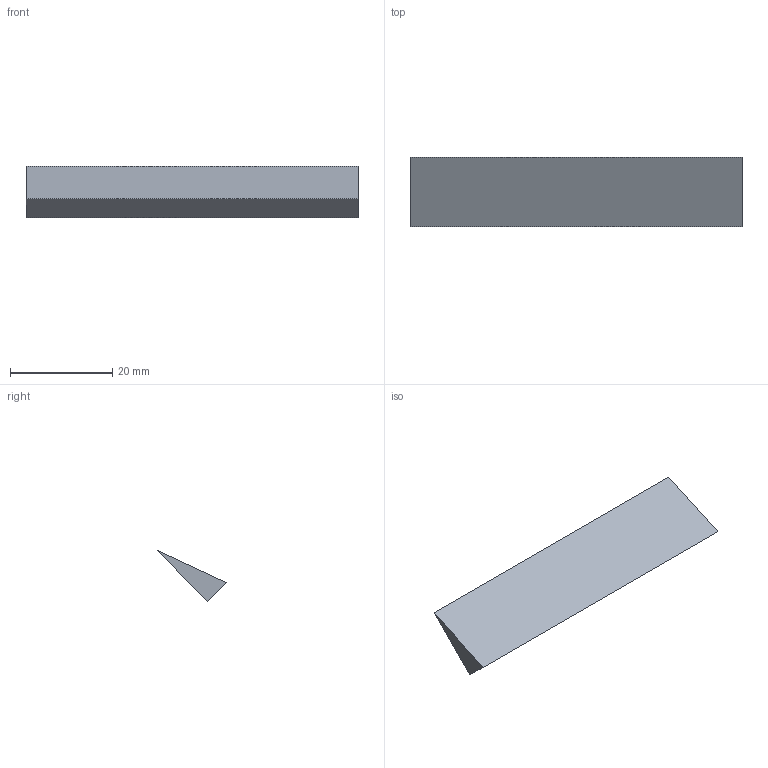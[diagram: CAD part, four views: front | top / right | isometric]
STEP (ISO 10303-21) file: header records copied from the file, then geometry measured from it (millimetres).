
FILE_DESCRIPTION(/* description */ ('STEP AP242 Edition 2','CAx-IF Rec.Pracs.---Representation and Presentation of Product Manufacturing Information (PMI)---4.0---2014-10-13','CAx-IF Rec.Pracs.---3D Tessellated Geometry---0.4---2014-09-14','2;1','CAx-IF Rec.Pracs.---User Defined Attributes---1.5---2016-08-15'),/* implementation_level */ '2;1');
FILE_NAME(/* name */ 'main - Part 50',/* time_stamp */ '2026-11-08T20:03:45Z',/* author */ (''),/* organization */ (''),/* preprocessor_version */ 'ST-DEVELOPER v20',/* originating_system */ 'ONSHAPE BY PTC INC, 1.223',/* authorisation */ ' ');
FILE_SCHEMA (('AP242_MANAGED_MODEL_BASED_3D_ENGINEERING_MIM_LF { 1 0 10303 442 3 1 4 }'));
Length unit declared in the file: metre
Products named in the file (1): Part 50
Bounding box: 65 x 13.59 x 10.02 mm (x, y, z)
Volume: 2400.8 mm3; surface area: 2302.6 mm2
Topology: 1 solids, 1 shells, 5 faces, 9 edges, 6 vertices
Faces by surface type: plane 5
Entity records: 145 total; most frequent: DIRECTION 21, CARTESIAN_POINT 21, ORIENTED_EDGE 18, EDGE_CURVE 9, LINE 9, VECTOR 9, VERTEX_POINT 6, AXIS2_PLACEMENT_3D 6
